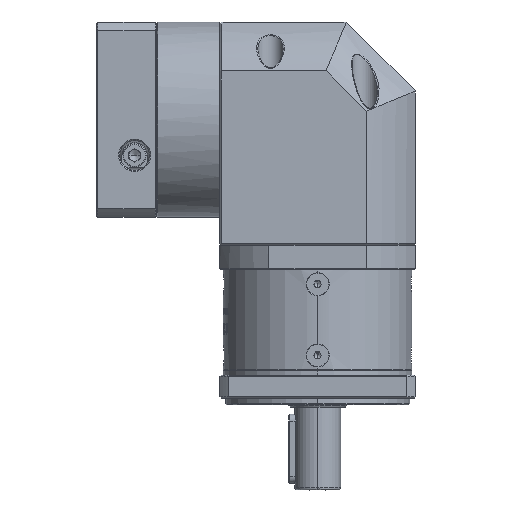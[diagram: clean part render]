
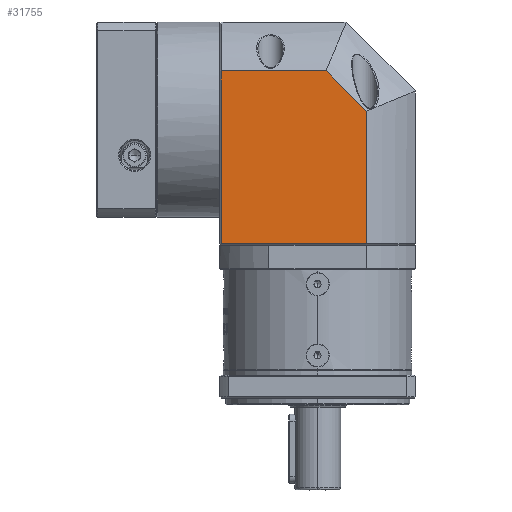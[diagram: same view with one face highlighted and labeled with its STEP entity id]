
A CAD part, left-side view. The second image highlights one B-rep face of the part: STEP entity #31755.
In plain terms, the highlighted planar face has unit normal (-1, 0, 0).
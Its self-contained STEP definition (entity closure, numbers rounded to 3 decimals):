
#7811 = VERTEX_POINT ( 'NONE', #62659 ) ;
#12644 = DIRECTION ( 'NONE',  ( 0., -1., 0. ) ) ;
#13724 = LINE ( 'NONE', #98556, #118849 ) ;
#21682 = VECTOR ( 'NONE', #12644, 1000. ) ;
#22153 = VECTOR ( 'NONE', #27201, 1000. ) ;
#22416 = ORIENTED_EDGE ( 'NONE', *, *, #37325, .F. ) ;
#26442 = LINE ( 'NONE', #54286, #22153 ) ;
#27201 = DIRECTION ( 'NONE',  ( 0., 0., -1. ) ) ;
#30214 = DIRECTION ( 'NONE',  ( 0., -1., 0. ) ) ;
#31755 = ADVANCED_FACE ( 'NONE', ( #132261 ), #171620, .F. ) ;
#37325 = EDGE_CURVE ( 'NONE', #118510, #7811, #174779, .T. ) ;
#47054 = EDGE_LOOP ( 'NONE', ( #145593, #174796, #22416, #99566, #152562 ) ) ;
#54286 = CARTESIAN_POINT ( 'NONE',  ( -125.541, 11.852, 123.902 ) ) ;
#62449 = CARTESIAN_POINT ( 'NONE',  ( -125.541, 75.565, 120.402 ) ) ;
#62659 = CARTESIAN_POINT ( 'NONE',  ( -125.541, 11.852, 81.585 ) ) ;
#71768 = DIRECTION ( 'NONE',  ( 0., -0.707, -0.707 ) ) ;
#76258 = DIRECTION ( 'NONE',  ( 0., 1., 0. ) ) ;
#78311 = CARTESIAN_POINT ( 'NONE',  ( -125.541, 75.065, 120.402 ) ) ;
#85204 = CARTESIAN_POINT ( 'NONE',  ( -125.541, 75.065, 23.902 ) ) ;
#97612 = AXIS2_PLACEMENT_3D ( 'NONE', #62449, #158434, #76258 ) ;
#98556 = CARTESIAN_POINT ( 'NONE',  ( -125.541, 75.565, 99.115 ) ) ;
#98877 = LINE ( 'NONE', #176352, #21682 ) ;
#99566 = ORIENTED_EDGE ( 'NONE', *, *, #147025, .F. ) ;
#101605 = CARTESIAN_POINT ( 'NONE',  ( -125.541, 75.065, 99.115 ) ) ;
#103663 = LINE ( 'NONE', #78311, #140180 ) ;
#112022 = VERTEX_POINT ( 'NONE', #101605 ) ;
#116036 = VERTEX_POINT ( 'NONE', #85204 ) ;
#117014 = EDGE_CURVE ( 'NONE', #116036, #130281, #98877, .T. ) ;
#118510 = VERTEX_POINT ( 'NONE', #128401 ) ;
#118849 = VECTOR ( 'NONE', #30214, 1000. ) ;
#119244 = EDGE_CURVE ( 'NONE', #116036, #112022, #103663, .T. ) ;
#128401 = CARTESIAN_POINT ( 'NONE',  ( -125.541, 29.382, 99.115 ) ) ;
#130281 = VERTEX_POINT ( 'NONE', #151723 ) ;
#132261 = FACE_OUTER_BOUND ( 'NONE', #47054, .T. ) ;
#138246 = VECTOR ( 'NONE', #71768, 1000. ) ;
#140180 = VECTOR ( 'NONE', #145530, 1000. ) ;
#145530 = DIRECTION ( 'NONE',  ( 0., 0., 1. ) ) ;
#145593 = ORIENTED_EDGE ( 'NONE', *, *, #117014, .T. ) ;
#147025 = EDGE_CURVE ( 'NONE', #112022, #118510, #13724, .T. ) ;
#151088 = EDGE_CURVE ( 'NONE', #7811, #130281, #26442, .T. ) ;
#151723 = CARTESIAN_POINT ( 'NONE',  ( -125.541, 11.852, 23.902 ) ) ;
#152562 = ORIENTED_EDGE ( 'NONE', *, *, #119244, .F. ) ;
#158434 = DIRECTION ( 'NONE',  ( 1., 0., 0. ) ) ;
#167717 = CARTESIAN_POINT ( 'NONE',  ( -125.541, 29.382, 99.115 ) ) ;
#171620 = PLANE ( 'NONE',  #97612 ) ;
#174779 = LINE ( 'NONE', #167717, #138246 ) ;
#174796 = ORIENTED_EDGE ( 'NONE', *, *, #151088, .F. ) ;
#176352 = CARTESIAN_POINT ( 'NONE',  ( -125.541, 75.565, 23.902 ) ) ;
